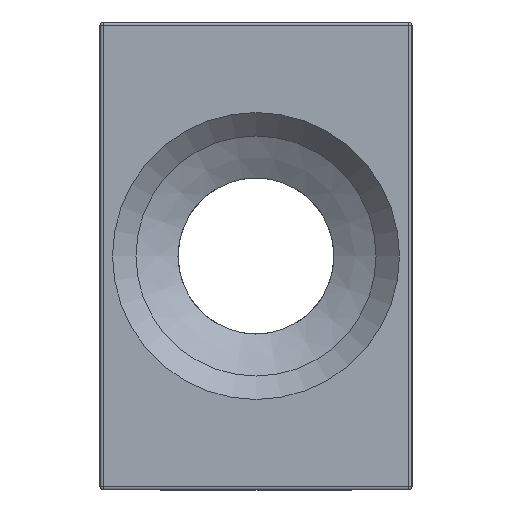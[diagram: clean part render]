
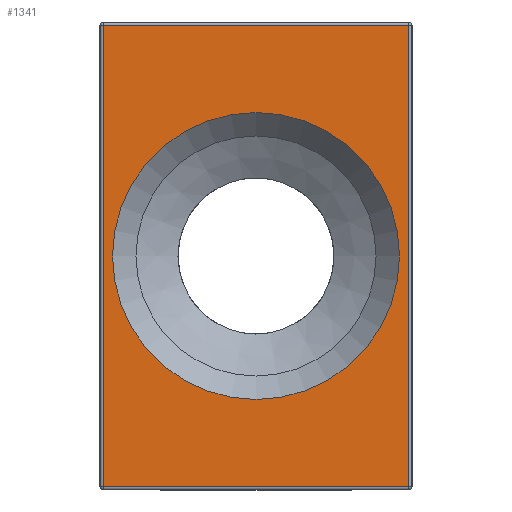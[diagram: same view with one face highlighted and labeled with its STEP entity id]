
A CAD part, left-side view. The second image highlights one B-rep face of the part: STEP entity #1341.
In plain terms, the highlighted planar face has unit normal (-1, 0, 0).
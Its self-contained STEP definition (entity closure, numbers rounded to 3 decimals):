
#82=FACE_BOUND('',#407,.T.);
#89=PLANE('',#1478);
#93=LINE('',#2167,#171);
#99=LINE('',#2197,#177);
#104=LINE('',#2204,#182);
#106=LINE('',#2207,#184);
#171=VECTOR('',#1675,10.);
#177=VECTOR('',#1711,10.);
#182=VECTOR('',#1720,10.);
#184=VECTOR('',#1724,10.);
#313=FACE_OUTER_BOUND('',#406,.T.);
#406=EDGE_LOOP('',(#994,#995,#996,#997));
#407=EDGE_LOOP('',(#998));
#502=CIRCLE('',#1479,9.198);
#568=VERTEX_POINT('',#2136);
#579=VERTEX_POINT('',#2163);
#582=VERTEX_POINT('',#2173);
#586=VERTEX_POINT('',#2190);
#602=VERTEX_POINT('',#2251);
#702=EDGE_CURVE('',#568,#579,#93,.T.);
#717=EDGE_CURVE('',#586,#582,#99,.T.);
#722=EDGE_CURVE('',#579,#586,#104,.T.);
#724=EDGE_CURVE('',#582,#568,#106,.T.);
#746=EDGE_CURVE('',#602,#602,#502,.T.);
#994=ORIENTED_EDGE('',*,*,#717,.F.);
#995=ORIENTED_EDGE('',*,*,#722,.F.);
#996=ORIENTED_EDGE('',*,*,#702,.F.);
#997=ORIENTED_EDGE('',*,*,#724,.F.);
#998=ORIENTED_EDGE('',*,*,#746,.F.);
#1341=ADVANCED_FACE('',(#313,#82),#89,.T.);
#1478=AXIS2_PLACEMENT_3D('',#2250,#1775,#1776);
#1479=AXIS2_PLACEMENT_3D('',#2252,#1777,#1778);
#1675=DIRECTION('',(0.,1.,0.));
#1711=DIRECTION('',(0.,-1.,0.));
#1720=DIRECTION('',(0.,0.,1.));
#1724=DIRECTION('',(0.,0.,-1.));
#1775=DIRECTION('center_axis',(-1.,0.,0.));
#1776=DIRECTION('ref_axis',(0.,0.,1.));
#1777=DIRECTION('center_axis',(-1.,0.,0.));
#1778=DIRECTION('ref_axis',(0.,1.,0.));
#2136=CARTESIAN_POINT('',(-90.,-9.8,-14.8));
#2163=CARTESIAN_POINT('',(-90.,9.8,-14.8));
#2167=CARTESIAN_POINT('',(-90.,0.,-14.8));
#2173=CARTESIAN_POINT('',(-90.,-9.8,14.8));
#2190=CARTESIAN_POINT('',(-90.,9.8,14.8));
#2197=CARTESIAN_POINT('',(-90.,0.,14.8));
#2204=CARTESIAN_POINT('',(-90.,9.8,-7.5));
#2207=CARTESIAN_POINT('',(-90.,-9.8,-7.5));
#2250=CARTESIAN_POINT('Origin',(-90.,0.,-15.));
#2251=CARTESIAN_POINT('',(-90.,-9.198,0.));
#2252=CARTESIAN_POINT('Origin',(-90.,0.,0.));
